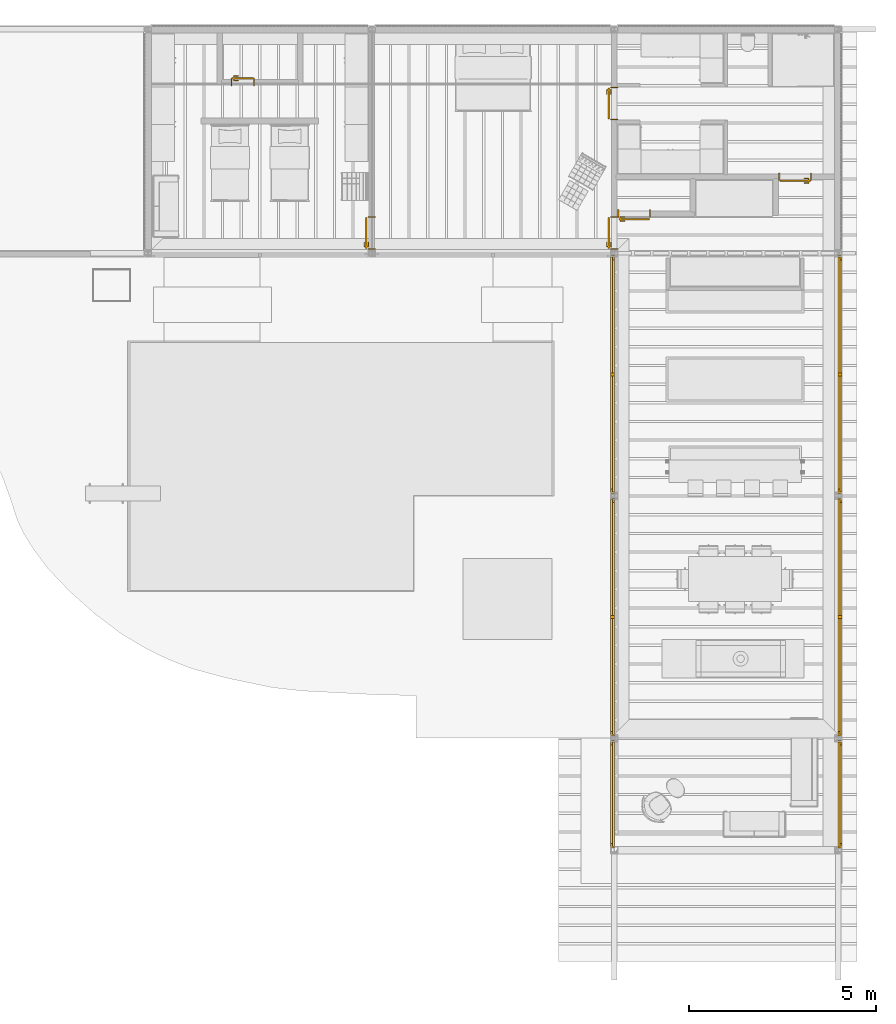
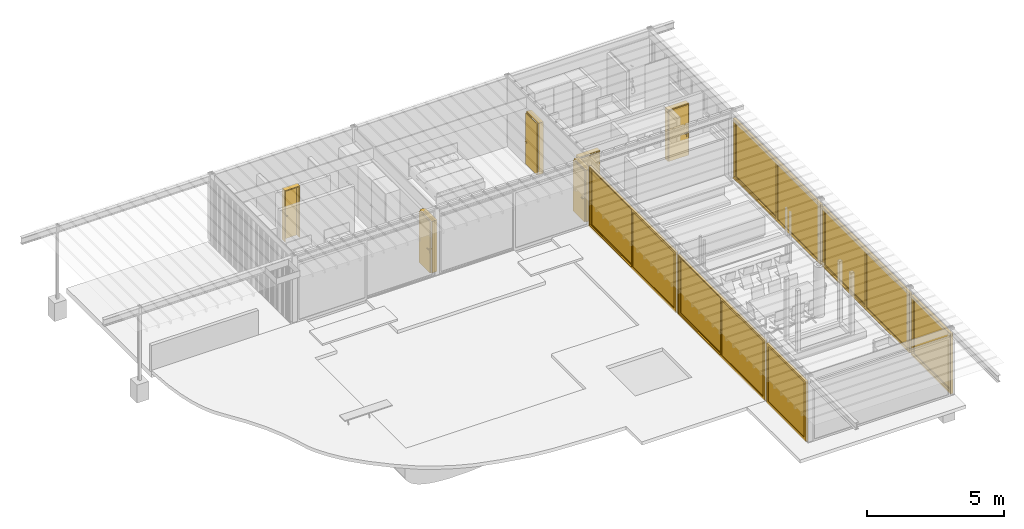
# One storey, part 17 of 28: 6 doors, 6 windows.
"""IFC4X3_ADD2 building model written with IfcOpenShell, lengths in metres."""

from ifc_helpers import new_model, si_unit, direction, frame, frame_2d, origin_with_axes, origin_2d_with_axis, place, context, subcontext, project, spatial, polyline, rectangle, outline, extrude, faceted_brep, source, transform, mapped, material, type_object, type_shapes, element, save


model = new_model("IFC4X3_ADD2")

# Units and contexts
model_context = context("Model", 3, precision=1e-05, world=origin_with_axes(), true_north=direction((0.0, 1.0)))
body_context = subcontext(model_context, "Body", "Model", "MODEL_VIEW")
ifc_project = project(units=[si_unit("LENGTHUNIT", "METRE"), si_unit("AREAUNIT", "SQUARE_METRE"), si_unit("VOLUMEUNIT", "CUBIC_METRE"), si_unit("PLANEANGLEUNIT", "RADIAN"), si_unit("TIMEUNIT", "SECOND"), si_unit("MASSUNIT", "GRAM")], contexts=[model_context])

# Site, building, storey
site_placement = place(None, origin_with_axes())
site = spatial("IfcSite", under=ifc_project, at=site_placement, Name="Site", CompositionType="ELEMENT")
building_placement = place(site_placement, origin_with_axes())
building = spatial("IfcBuilding", under=site, at=building_placement, Name="Default Building")
storey_placement = place(building_placement, frame((0.0, 0.0, -0.08), z_axis=(0.0, 0.0, 1.0), x_axis=(1.0, 0.0, 0.0)))
storey = spatial("IfcBuildingStorey", under=building, at=storey_placement, Name="Gruendung", Elevation=-0.08)

# Windows
ifc_material = material(Name="Default")
window_type_1 = type_object("IfcWindowType", ParameterTakesPrecedence=False, PartitioningType="NOTDEFINED", PredefinedType="NOTDEFINED")
shared_shape_1 = source(origin_with_axes(), body_context, "Body", "SolidModel", [
    faceted_brep([(6.34, 0.08, 0.0), (6.34, 2.64, 0.0), (6.34, 2.64, -0.09999999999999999), (6.34, 0.08, -0.09999999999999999), (0.04000000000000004, 2.64, 0.0), (0.04000000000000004, 2.64, -0.09999999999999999), (0.04000000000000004, 0.08, 0.0), (0.04000000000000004, 0.08, -0.09999999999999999), (6.38, 0.0, -0.09999999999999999), (6.38, 2.68, -0.09999999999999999), (6.38, 2.68, 0.0), (6.38, 0.0, 0.0), (0.0, 2.68, -0.09999999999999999), (0.0, 2.68, 0.0), (0.0, 0.0, -0.09999999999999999), (0.0, 0.0, 0.0)], [[[0, 1, 2, 3]], [[1, 4, 5, 2]], [[4, 6, 7, 5]], [[6, 0, 3, 7]], [[8, 9, 10, 11]], [[9, 12, 13, 10]], [[12, 14, 15, 13]], [[8, 14, 12, 9], [2, 5, 7, 3]], [[14, 8, 11, 15]], [[13, 15, 11, 10], [1, 0, 6, 4]]]),
    faceted_brep([(6.26, 0.13, 0.0), (6.26, 2.59, 0.0), (6.26, 2.59, -0.04999999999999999), (6.26, 0.13, -0.04999999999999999), (3.23, 2.59, 0.0), (3.23, 2.59, -0.04999999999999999), (3.23, 0.13, 0.0), (3.23, 0.13, -0.04999999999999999), (6.34, 0.08, -0.04999999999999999), (6.34, 2.64, -0.04999999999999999), (6.34, 2.64, 0.0), (6.34, 0.08, 0.0), (3.15, 2.64, -0.04999999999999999), (3.15, 2.64, 0.0), (3.15, 0.08, -0.04999999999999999), (3.15, 0.08, 0.0)], [[[0, 1, 2, 3]], [[1, 4, 5, 2]], [[4, 6, 7, 5]], [[6, 0, 3, 7]], [[8, 9, 10, 11]], [[9, 12, 13, 10]], [[12, 14, 15, 13]], [[8, 14, 12, 9], [2, 5, 7, 3]], [[14, 8, 11, 15]], [[13, 15, 11, 10], [1, 0, 6, 4]]]),
    extrude(rectangle(XDim=3.03, YDim=2.46, at=origin_2d_with_axis()), frame((4.745, 1.36, -0.0265), z_axis=(0.0, 0.0, 1.0), x_axis=(1.0, 0.0, 0.0)), (0.0, 0.0, 1.0), 0.003000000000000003),
    faceted_brep([(3.15, 0.13, -0.04999999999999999), (3.15, 2.59, -0.04999999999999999), (3.15, 2.59, -0.09999999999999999), (3.15, 0.13, -0.09999999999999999), (0.1200000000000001, 2.59, -0.04999999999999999), (0.1200000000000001, 2.59, -0.09999999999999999), (0.1200000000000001, 0.13, -0.04999999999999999), (0.1200000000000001, 0.13, -0.09999999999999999), (3.23, 0.08, -0.09999999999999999), (3.23, 2.64, -0.09999999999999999), (3.23, 2.64, -0.04999999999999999), (3.23, 0.08, -0.04999999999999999), (0.04000000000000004, 2.64, -0.09999999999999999), (0.04000000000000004, 2.64, -0.04999999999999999), (0.04000000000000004, 0.08, -0.09999999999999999), (0.04000000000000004, 0.08, -0.04999999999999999)], [[[0, 1, 2, 3]], [[1, 4, 5, 2]], [[4, 6, 7, 5]], [[6, 0, 3, 7]], [[8, 9, 10, 11]], [[9, 12, 13, 10]], [[12, 14, 15, 13]], [[8, 14, 12, 9], [2, 5, 7, 3]], [[14, 8, 11, 15]], [[13, 15, 11, 10], [1, 0, 6, 4]]]),
    extrude(rectangle(XDim=3.03, YDim=2.46, at=origin_2d_with_axis()), frame((1.635, 1.36, -0.0765), z_axis=(0.0, 0.0, 1.0), x_axis=(1.0, 0.0, 0.0)), (0.0, 0.0, 1.0), 0.003000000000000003),
    extrude(rectangle(XDim=0.06000000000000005, YDim=0.02499999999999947, at=frame_2d((0.0, 0.0), x_axis=(0.0, 1.0))), frame((0.07999999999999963, 1.36, -0.11), z_axis=(0.0, 0.0, 1.0), x_axis=(1.0, 0.0, 0.0)), (0.0, 0.0, 1.0), 0.009999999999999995),
    extrude(outline(polyline([(-0.01666666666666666, 0.07500000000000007), (-0.006666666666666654, 0.07500000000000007), (-0.006666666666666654, -0.02999999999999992), (0.02333333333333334, -0.02999999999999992), (0.02333333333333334, -0.04499999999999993), (-0.01666666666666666, -0.04499999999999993), (-0.01666666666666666, 0.07500000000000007)])), frame((0.07249999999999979, 1.3225, -0.1333333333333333), z_axis=(1.0, 0.0, 0.0), x_axis=(0.0, 0.0, 1.0)), (0.0, 0.0, 1.0), 0.01499999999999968),
])
window_1_placement = place(storey_placement, frame((25.1, 9.559999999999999, 0.0), z_axis=(0.0, 0.0, 1.0), x_axis=(0.0, 1.0, 0.0)))
element("IfcWindow", 1, at=window_1_placement, inside=storey, type_object=window_type_1, material=ifc_material, Name="Fe Stumpf 2FlgS 2Gl Eckig", context=body_context, shape_type="MappedRepresentation", body=[
    mapped(shared_shape_1, transform((0.0, 0.0, 0.0), x_axis=(1.0, 0.0, 0.0), y_axis=(0.0, 0.0, 1.0), z_axis=(0.0, -1.0, 0.0), scale=0.9999999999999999)),
])
window_type_2 = type_object("IfcWindowType", ParameterTakesPrecedence=False, PartitioningType="NOTDEFINED", PredefinedType="NOTDEFINED")
window_2_placement = place(storey_placement, frame((25.1, 3.059999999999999, 0.0), z_axis=(0.0, 0.0, 1.0), x_axis=(0.0, 1.0, 0.0)))
element("IfcWindow", 2, at=window_2_placement, inside=storey, type_object=window_type_2, material=ifc_material, Name="Fe Stumpf 2FlgS 2Gl Eckig", context=body_context, shape_type="MappedRepresentation", body=[
    mapped(shared_shape_1, transform((0.0, 0.0, 0.0), x_axis=(1.0, 0.0, 0.0), y_axis=(0.0, 0.0, 1.0), z_axis=(0.0, -1.0, 0.0), scale=0.9999999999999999)),
])
window_type_3 = type_object("IfcWindowType", ParameterTakesPrecedence=False, PartitioningType="NOTDEFINED", PredefinedType="NOTDEFINED")
window_3_placement = place(storey_placement, frame((18.9, 9.44, 0.0), z_axis=(0.0, 0.0, 1.0), x_axis=(0.0, -1.0, 0.0)))
element("IfcWindow", 3, at=window_3_placement, inside=storey, type_object=window_type_3, material=ifc_material, Name="Fe Stumpf 2FlgS 2Gl Eckig", context=body_context, shape_type="MappedRepresentation", body=[
    mapped(shared_shape_1, transform((0.0, 0.0, 0.0), x_axis=(1.0, 0.0, 0.0), y_axis=(0.0, 0.0, 1.0), z_axis=(0.0, -1.0, 0.0), scale=0.9999999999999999)),
])
window_type_4 = type_object("IfcWindowType", ParameterTakesPrecedence=False, PartitioningType="NOTDEFINED", PredefinedType="NOTDEFINED")
type_shapes(window_type_4, [shared_shape_1])
window_4_placement = place(storey_placement, frame((18.9, 15.94, 0.0), z_axis=(0.0, 0.0, 1.0), x_axis=(0.0, -1.0, 0.0)))
element("IfcWindow", 4, at=window_4_placement, inside=storey, type_object=window_type_4, material=ifc_material, Name="Fe Stumpf 2FlgS 2Gl Eckig", context=body_context, shape_type="MappedRepresentation", body=[
    mapped(shared_shape_1, transform((0.0, 0.0, 0.0), x_axis=(1.0, 0.0, 0.0), y_axis=(0.0, 0.0, 1.0), z_axis=(0.0, -1.0, 0.0), scale=1.0)),
])
window_type_5 = type_object("IfcWindowType", ParameterTakesPrecedence=False, PartitioningType="NOTDEFINED", PredefinedType="NOTDEFINED")
shared_shape_2 = source(origin_with_axes(), body_context, "Body", "SolidModel", [
    faceted_brep([(2.84, 0.08, 0.0), (2.84, 2.64, 0.0), (2.84, 2.64, -0.1), (2.84, 0.08, -0.1), (0.04000000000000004, 2.64, 0.0), (0.04000000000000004, 2.64, -0.09999999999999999), (0.04000000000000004, 0.08, 0.0), (0.04000000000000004, 0.08, -0.09999999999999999), (2.88, 0.0, -0.1), (2.88, 2.68, -0.1), (2.88, 2.68, 0.0), (2.88, 0.0, 0.0), (0.0, 2.68, -0.09999999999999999), (0.0, 2.68, 0.0), (0.0, 0.0, -0.09999999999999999), (0.0, 0.0, 0.0)], [[[0, 1, 2, 3]], [[1, 4, 5, 2]], [[4, 6, 7, 5]], [[6, 0, 3, 7]], [[8, 9, 10, 11]], [[9, 12, 13, 10]], [[12, 14, 15, 13]], [[8, 14, 12, 9], [2, 5, 7, 3]], [[14, 8, 11, 15]], [[13, 15, 11, 10], [1, 0, 6, 4]]]),
    faceted_brep([(2.76, 0.13, 0.0), (2.76, 2.59, 0.0), (2.76, 2.59, -0.05), (2.76, 0.13, -0.05), (0.1199999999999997, 2.59, 0.0), (0.1200000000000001, 2.59, -0.04999999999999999), (0.1199999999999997, 0.13, 0.0), (0.1200000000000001, 0.13, -0.04999999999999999), (2.84, 0.08, -0.05), (2.84, 2.64, -0.05), (2.84, 2.64, 0.0), (2.84, 0.08, 0.0), (0.04000000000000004, 2.64, -0.04999999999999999), (0.04000000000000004, 2.64, 0.0), (0.04000000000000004, 0.08, -0.04999999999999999), (0.04000000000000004, 0.08, 0.0)], [[[0, 1, 2, 3]], [[1, 4, 5, 2]], [[4, 6, 7, 5]], [[6, 0, 3, 7]], [[8, 9, 10, 11]], [[9, 12, 13, 10]], [[12, 14, 15, 13]], [[8, 14, 12, 9], [2, 5, 7, 3]], [[14, 8, 11, 15]], [[13, 15, 11, 10], [1, 0, 6, 4]]]),
    extrude(rectangle(XDim=2.64, YDim=2.46, at=origin_2d_with_axis()), frame((1.44, 1.36, -0.02650000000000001), z_axis=(0.0, 0.0, 1.0), x_axis=(1.0, 0.0, 0.0)), (0.0, 0.0, 1.0), 0.003000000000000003),
])
window_5_placement = place(storey_placement, frame((25.1, 0.06000000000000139, 0.0), z_axis=(0.0, 0.0, 1.0), x_axis=(0.0, 1.0, 0.0)))
element("IfcWindow", 5, at=window_5_placement, inside=storey, type_object=window_type_5, material=ifc_material, Name="Fe Stumpf 2FlgS 2Gl Eckig", context=body_context, shape_type="MappedRepresentation", body=[
    mapped(shared_shape_2, transform((0.0, 0.0, 0.0), x_axis=(1.0, 0.0, 0.0), y_axis=(0.0, 0.0, 1.0), z_axis=(0.0, -1.0, 0.0), scale=1.0)),
])
window_type_6 = type_object("IfcWindowType", ParameterTakesPrecedence=False, PartitioningType="NOTDEFINED", PredefinedType="NOTDEFINED")
type_shapes(window_type_6, [shared_shape_2])
window_6_placement = place(storey_placement, frame((18.9, 2.94, 0.0), z_axis=(0.0, 0.0, 1.0), x_axis=(0.0, -1.0, 0.0)))
element("IfcWindow", 6, at=window_6_placement, inside=storey, type_object=window_type_6, material=ifc_material, Name="Fe Stumpf 2FlgS 2Gl Eckig", context=body_context, shape_type="MappedRepresentation", body=[
    mapped(shared_shape_2, transform((0.0, 0.0, 0.0), x_axis=(1.0, 0.0, 0.0), y_axis=(0.0, 0.0, 1.0), z_axis=(0.0, -1.0, 0.0), scale=1.0)),
])

# Doors
door_type_1 = type_object("IfcDoorType", OperationType="NOTDEFINED", ParameterTakesPrecedence=False, PredefinedType="NOTDEFINED")
shared_shape_3 = source(origin_with_axes(), body_context, "Body", "SweptSolid", [
    extrude(outline(polyline([(0.4425, -1.1425), (0.4125, -1.1425), (0.4125, 1.1275), (-0.4125, 1.1275), (-0.4125, -1.1425), (-0.4425, -1.1425), (-0.4425, 1.1575), (0.4425, 1.1575), (0.4425, -1.1425)])), frame((0.4425, 1.1425, -0.21), z_axis=(0.0, 0.0, 1.0), x_axis=(1.0, 0.0, 0.0)), (0.0, 0.0, 1.0), 0.21),
    extrude(rectangle(XDim=2.27, YDim=0.825, at=frame_2d((0.0, 0.0), x_axis=(0.0, 1.0))), frame((0.4425, 1.135, -0.27), z_axis=(0.0, 0.0, 1.0), x_axis=(1.0, 0.0, 0.0)), (0.0, 0.0, 1.0), 0.04000000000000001),
    extrude(rectangle(XDim=0.2000000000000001, YDim=0.04000000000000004, at=frame_2d((0.0, 0.0), x_axis=(0.0, 1.0))), frame((0.07999999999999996, 0.9500000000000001, -0.275), z_axis=(0.0, 0.0, 1.0), x_axis=(1.0, 0.0, 0.0)), (0.0, 0.0, 1.0), 0.005000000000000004),
    extrude(outline(polyline([(0.07833333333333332, 0.02333333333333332), (0.07833333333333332, -0.001666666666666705), (-0.02666666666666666, -0.001666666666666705), (-0.02666666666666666, -0.02166666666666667), (-0.05166666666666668, -0.02166666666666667), (-0.05166666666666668, 0.02333333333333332), (0.07833333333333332, 0.02333333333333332)])), frame((0.1191666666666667, 1.0175, -0.2966666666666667), z_axis=(0.0, 1.0, 0.0), x_axis=(1.0, 0.0, 0.0)), (0.0, 0.0, 1.0), 0.02500000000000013),
    extrude(rectangle(XDim=0.2000000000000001, YDim=0.04000000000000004, at=frame_2d((0.0, 0.0), x_axis=(0.0, 1.0))), frame((0.07999999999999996, 0.9500000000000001, -0.23), z_axis=(0.0, 0.0, 1.0), x_axis=(1.0, 0.0, 0.0)), (0.0, 0.0, 1.0), 0.005000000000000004),
    extrude(outline(polyline([(-0.05166666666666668, 0.02166666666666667), (-0.02666666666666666, 0.02166666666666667), (-0.02666666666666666, 0.001666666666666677), (0.07833333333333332, 0.001666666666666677), (0.07833333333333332, -0.02333333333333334), (-0.05166666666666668, -0.02333333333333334), (-0.05166666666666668, 0.02166666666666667)])), frame((0.1191666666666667, 1.0175, -0.2033333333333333), z_axis=(0.0, 1.0, 0.0), x_axis=(1.0, 0.0, 0.0)), (0.0, 0.0, 1.0), 0.02500000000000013),
])
door_1_placement = place(storey_placement, frame((12.605, 16.1, 0.08), z_axis=(0.0, 0.0, 1.0), x_axis=(0.0, 1.0, 0.0)))
element("IfcDoor", 7, at=door_1_placement, inside=storey, type_object=door_type_1, material=ifc_material, Name="Tr Schieben 76X204", OverallHeight=2.3, OverallWidth=0.885, context=body_context, shape_type="MappedRepresentation", body=[
    mapped(shared_shape_3, transform((0.0, 0.0, 0.0), x_axis=(1.0, 0.0, 0.0), y_axis=(0.0, 0.0, 1.0), z_axis=(0.0, -1.0, 0.0), scale=1.0)),
])
door_type_2 = type_object("IfcDoorType", OperationType="NOTDEFINED", ParameterTakesPrecedence=False, PredefinedType="NOTDEFINED")
type_shapes(door_type_2, [shared_shape_3])
door_2_placement = place(storey_placement, frame((19.105, 16.1, 0.08), z_axis=(0.0, 0.0, 1.0), x_axis=(0.0, 1.0, 0.0)))
element("IfcDoor", 8, at=door_2_placement, inside=storey, type_object=door_type_2, material=ifc_material, Name="Tr Schieben 76X204", OverallHeight=2.3, OverallWidth=0.885, context=body_context, shape_type="MappedRepresentation", body=[
    mapped(shared_shape_3, transform((0.0, 0.0, 0.0), x_axis=(1.0, 0.0, 0.0), y_axis=(0.0, 0.0, 1.0), z_axis=(0.0, -1.0, 0.0), scale=1.0)),
])
door_type_3 = type_object("IfcDoorType", OperationType="NOTDEFINED", ParameterTakesPrecedence=False, PredefinedType="NOTDEFINED")
shared_shape_4 = source(origin_with_axes(), body_context, "Body", "SweptSolid", [
    extrude(outline(polyline([(0.4425, -1.1425), (0.4125, -1.1425), (0.4125, 1.1275), (-0.4125, 1.1275), (-0.4125, -1.1425), (-0.4425, -1.1425), (-0.4425, 1.1575), (0.4425, 1.1575), (0.4425, -1.1425)])), frame((0.4425, 1.1425, -0.32), z_axis=(0.0, 0.0, 1.0), x_axis=(1.0, 0.0, 0.0)), (0.0, 0.0, 1.0), 0.21),
    extrude(rectangle(XDim=2.27, YDim=0.825, at=frame_2d((0.0, 0.0), x_axis=(0.0, 1.0))), frame((0.4425, 1.135, -0.09), z_axis=(0.0, 0.0, 1.0), x_axis=(1.0, 0.0, 0.0)), (0.0, 0.0, 1.0), 0.04000000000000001),
    extrude(rectangle(XDim=0.2000000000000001, YDim=0.04000000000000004, at=frame_2d((0.0, 0.0), x_axis=(0.0, 1.0))), frame((0.07999999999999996, 0.9500000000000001, -0.095), z_axis=(0.0, 0.0, 1.0), x_axis=(1.0, 0.0, 0.0)), (0.0, 0.0, 1.0), 0.005000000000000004),
    extrude(outline(polyline([(0.07833333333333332, 0.02333333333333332), (0.07833333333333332, -0.001666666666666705), (-0.02666666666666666, -0.001666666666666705), (-0.02666666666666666, -0.02166666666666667), (-0.05166666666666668, -0.02166666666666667), (-0.05166666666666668, 0.02333333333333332), (0.07833333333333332, 0.02333333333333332)])), frame((0.1191666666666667, 1.0175, -0.1166666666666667), z_axis=(0.0, 1.0, 0.0), x_axis=(1.0, 0.0, 0.0)), (0.0, 0.0, 1.0), 0.02500000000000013),
    extrude(rectangle(XDim=0.2000000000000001, YDim=0.04000000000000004, at=frame_2d((0.0, 0.0), x_axis=(0.0, 1.0))), frame((0.07999999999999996, 0.9500000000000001, -0.04999999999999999), z_axis=(0.0, 0.0, 1.0), x_axis=(1.0, 0.0, 0.0)), (0.0, 0.0, 1.0), 0.005000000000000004),
    extrude(outline(polyline([(-0.05166666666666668, 0.02166666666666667), (-0.02666666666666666, 0.02166666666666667), (-0.02666666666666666, 0.001666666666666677), (0.07833333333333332, 0.001666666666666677), (0.07833333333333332, -0.02333333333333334), (-0.05166666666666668, -0.02333333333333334), (-0.05166666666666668, 0.02166666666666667)])), frame((0.1191666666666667, 1.0175, -0.02333333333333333), z_axis=(0.0, 1.0, 0.0), x_axis=(1.0, 0.0, 0.0)), (0.0, 0.0, 1.0), 0.02500000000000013),
])
door_3_placement = place(storey_placement, frame((18.785, 20.45333333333, 0.07999999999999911), z_axis=(0.0, 0.0, 1.0), x_axis=(0.0, -1.0, 0.0)))
element("IfcDoor", 9, at=door_3_placement, inside=storey, type_object=door_type_3, material=ifc_material, Name="Tr Schieben 76X204", OverallHeight=2.3, OverallWidth=0.885, context=body_context, shape_type="MappedRepresentation", body=[
    mapped(shared_shape_4, transform((0.0, 0.0, 0.0), x_axis=(1.0, 0.0, 0.0), y_axis=(0.0, 0.0, 1.0), z_axis=(0.0, -1.0, 0.0), scale=1.0)),
])
door_type_4 = type_object("IfcDoorType", OperationType="NOTDEFINED", ParameterTakesPrecedence=False, PredefinedType="NOTDEFINED")
type_shapes(door_type_4, [shared_shape_4])
door_4_placement = place(storey_placement, frame((19.09138203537, 16.845, 0.08), z_axis=(0.0, 0.0, 1.0), x_axis=(1.0, 0.0, 0.0)))
element("IfcDoor", 10, at=door_4_placement, inside=storey, type_object=door_type_4, material=ifc_material, Name="Tr Schieben 76X204", OverallHeight=2.3, OverallWidth=0.885, context=body_context, shape_type="MappedRepresentation", body=[
    mapped(shared_shape_4, transform((0.0, 0.0, 0.0), x_axis=(1.0, 0.0, 0.0), y_axis=(0.0, 0.0, 1.0), z_axis=(0.0, -1.0, 0.0), scale=1.0)),
])
door_type_5 = type_object("IfcDoorType", OperationType="NOTDEFINED", ParameterTakesPrecedence=False, PredefinedType="NOTDEFINED")
shared_shape_5 = source(origin_with_axes(), body_context, "Body", "SweptSolid", [
    extrude(outline(polyline([(0.4425, -1.14175), (0.4095, -1.14175), (0.4095, 1.12525), (-0.4095, 1.12525), (-0.4095, -1.14175), (-0.4425, -1.14175), (-0.4425, 1.15825), (0.4425, 1.15825), (0.4425, -1.14175)])), frame((0.4425, 1.14175, -0.21), z_axis=(0.0, 0.0, 1.0), x_axis=(1.0, 0.0, 0.0)), (0.0, 0.0, 1.0), 0.21),
    extrude(rectangle(XDim=2.267, YDim=0.819, at=frame_2d((0.0, 0.0), x_axis=(0.0, 1.0))), frame((0.4425, 1.1335, -0.23), z_axis=(0.0, 0.0, 1.0), x_axis=(1.0, 0.0, 0.0)), (0.0, 0.0, 1.0), 0.04000000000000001),
    extrude(rectangle(XDim=0.2000000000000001, YDim=0.04000000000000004, at=frame_2d((0.0, 0.0), x_axis=(0.0, 1.0))), frame((0.08299999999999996, 0.9500000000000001, -0.235), z_axis=(0.0, 0.0, 1.0), x_axis=(1.0, 0.0, 0.0)), (0.0, 0.0, 1.0), 0.005000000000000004),
    extrude(outline(polyline([(0.07833333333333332, 0.02333333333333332), (0.07833333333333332, -0.001666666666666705), (-0.02666666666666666, -0.001666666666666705), (-0.02666666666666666, -0.02166666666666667), (-0.05166666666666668, -0.02166666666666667), (-0.05166666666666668, 0.02333333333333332), (0.07833333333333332, 0.02333333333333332)])), frame((0.1221666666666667, 1.0175, -0.2566666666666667), z_axis=(0.0, 1.0, 0.0), x_axis=(1.0, 0.0, 0.0)), (0.0, 0.0, 1.0), 0.02500000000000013),
    extrude(rectangle(XDim=0.2000000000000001, YDim=0.04000000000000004, at=frame_2d((0.0, 0.0), x_axis=(0.0, 1.0))), frame((0.08299999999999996, 0.9500000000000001, -0.19), z_axis=(0.0, 0.0, 1.0), x_axis=(1.0, 0.0, 0.0)), (0.0, 0.0, 1.0), 0.005000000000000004),
    extrude(outline(polyline([(-0.05166666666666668, 0.02166666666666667), (-0.02666666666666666, 0.02166666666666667), (-0.02666666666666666, 0.001666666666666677), (0.07833333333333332, 0.001666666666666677), (0.07833333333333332, -0.02333333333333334), (-0.05166666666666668, -0.02333333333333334), (-0.05166666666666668, 0.02166666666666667)])), frame((0.1221666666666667, 1.0175, -0.1633333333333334), z_axis=(0.0, 1.0, 0.0), x_axis=(1.0, 0.0, 0.0)), (0.0, 0.0, 1.0), 0.02500000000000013),
])
type_shapes(door_type_5, [shared_shape_5])
door_5_placement = place(storey_placement, frame((24.29, 18.15166666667, 0.08), z_axis=(0.0, 0.0, 1.0), x_axis=(-1.0, 0.0, 0.0)))
element("IfcDoor", 11, at=door_5_placement, inside=storey, type_object=door_type_5, material=ifc_material, Name="Tr Zarge 88.5x204", OverallHeight=2.3, OverallWidth=0.885, context=body_context, shape_type="MappedRepresentation", body=[
    mapped(shared_shape_5, transform((0.0, 0.0, 0.0), x_axis=(1.0, 0.0, 0.0), y_axis=(0.0, 0.0, 1.0), z_axis=(0.0, -1.0, 0.0), scale=1.0)),
])
door_type_6 = type_object("IfcDoorType", OperationType="NOTDEFINED", ParameterTakesPrecedence=False, PredefinedType="NOTDEFINED")
shared_shape_6 = source(origin_with_axes(), body_context, "Body", "SweptSolid", [
    extrude(outline(polyline([(0.3175, -1.14175), (0.2845, -1.14175), (0.2845, 1.12525), (-0.2845, 1.12525), (-0.2845, -1.14175), (-0.3175, -1.14175), (-0.3175, 1.15825), (0.3175, 1.15825), (0.3175, -1.14175)])), frame((0.3175, 1.14175, -0.28), z_axis=(0.0, 0.0, 1.0), x_axis=(1.0, 0.0, 0.0)), (0.0, 0.0, 1.0), 0.21),
    extrude(rectangle(XDim=2.267, YDim=0.569, at=frame_2d((0.0, 0.0), x_axis=(0.0, 1.0))), frame((0.3175, 1.1335, -0.09000000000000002), z_axis=(0.0, 0.0, 1.0), x_axis=(1.0, 0.0, 0.0)), (0.0, 0.0, 1.0), 0.04000000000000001),
    extrude(rectangle(XDim=0.2000000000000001, YDim=0.04000000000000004, at=frame_2d((0.0, 0.0), x_axis=(0.0, 1.0))), frame((0.552, 0.9500000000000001, -0.09500000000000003), z_axis=(0.0, 0.0, 1.0), x_axis=(1.0, 0.0, 0.0)), (0.0, 0.0, 1.0), 0.005000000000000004),
    extrude(outline(polyline([(0.05166666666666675, -0.02166666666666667), (0.02666666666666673, -0.02166666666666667), (0.02666666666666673, -0.001666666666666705), (-0.07833333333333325, -0.001666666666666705), (-0.07833333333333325, 0.02333333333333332), (0.05166666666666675, 0.02333333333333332), (0.05166666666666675, -0.02166666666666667)])), frame((0.5128333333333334, 1.0175, -0.1166666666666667), z_axis=(0.0, 1.0, 0.0), x_axis=(1.0, 0.0, 0.0)), (0.0, 0.0, 1.0), 0.02500000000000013),
    extrude(rectangle(XDim=0.2000000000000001, YDim=0.04000000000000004, at=frame_2d((0.0, 0.0), x_axis=(0.0, 1.0))), frame((0.552, 0.9500000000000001, -0.05000000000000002), z_axis=(0.0, 0.0, 1.0), x_axis=(1.0, 0.0, 0.0)), (0.0, 0.0, 1.0), 0.005000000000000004),
    extrude(outline(polyline([(-0.07833333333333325, -0.02333333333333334), (-0.07833333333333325, 0.001666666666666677), (0.02666666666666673, 0.001666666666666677), (0.02666666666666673, 0.02166666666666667), (0.05166666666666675, 0.02166666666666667), (0.05166666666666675, -0.02333333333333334), (-0.07833333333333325, -0.02333333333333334)])), frame((0.5128333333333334, 1.0175, -0.02333333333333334), z_axis=(0.0, 1.0, 0.0), x_axis=(1.0, 0.0, 0.0)), (0.0, 0.0, 1.0), 0.02500000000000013),
])
type_shapes(door_type_6, [shared_shape_6])
door_6_placement = place(storey_placement, frame((9.357475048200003, 20.76071163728, 0.08), z_axis=(0.0, 0.0, 1.0), x_axis=(-1.0, 0.0, 0.0)))
element("IfcDoor", 12, at=door_6_placement, inside=storey, type_object=door_type_6, material=ifc_material, Name="Tr Zarge 88.5x204", OverallHeight=2.3, OverallWidth=0.635, context=body_context, shape_type="MappedRepresentation", body=[
    mapped(shared_shape_6, transform((0.0, 0.0, 0.0), x_axis=(1.0, 0.0, 0.0), y_axis=(0.0, 0.0, 1.0), z_axis=(0.0, -1.0, 0.0), scale=1.0)),
])

save(model, "model.ifc")
